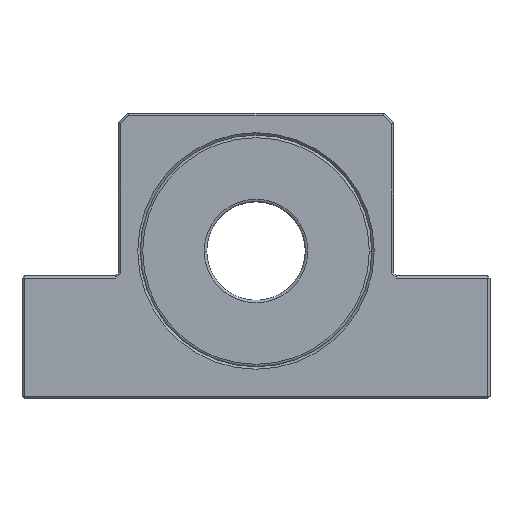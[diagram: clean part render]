
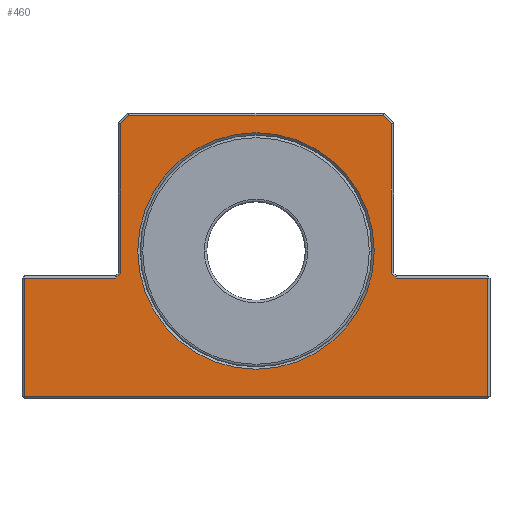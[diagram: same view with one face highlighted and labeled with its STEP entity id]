
A CAD part, top view. The second image highlights one B-rep face of the part: STEP entity #460.
In plain terms, the highlighted planar face has unit normal (0, 0, 1).
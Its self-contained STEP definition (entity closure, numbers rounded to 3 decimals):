
#30 = CARTESIAN_POINT ( 'NONE',  ( -24., 0., 13. ) ) ;
#34 = CARTESIAN_POINT ( 'NONE',  ( -27.5, -4.5, 13. ) ) ;
#35 = CARTESIAN_POINT ( 'NONE',  ( -27.5, 25.793, 13. ) ) ;
#36 = CARTESIAN_POINT ( 'NONE',  ( -25.793, 27.5, 13. ) ) ;
#42 = CARTESIAN_POINT ( 'NONE',  ( -47., -29.5, 13. ) ) ;
#43 = CARTESIAN_POINT ( 'NONE',  ( 28.5, -5.5, 13. ) ) ;
#44 = CARTESIAN_POINT ( 'NONE',  ( 47., -5.5, 13. ) ) ;
#74 = CARTESIAN_POINT ( 'NONE',  ( 27.5, -4.5, 13. ) ) ;
#75 = CARTESIAN_POINT ( 'NONE',  ( -47., -5.5, 13. ) ) ;
#94 = CARTESIAN_POINT ( 'NONE',  ( -28.5, -5.5, 13. ) ) ;
#95 = CARTESIAN_POINT ( 'NONE',  ( 47., -29.5, 13. ) ) ;
#102 = CARTESIAN_POINT ( 'NONE',  ( 24., 0., 13. ) ) ;
#112 = CARTESIAN_POINT ( 'NONE',  ( 27.5, 25.793, 13. ) ) ;
#137 = CARTESIAN_POINT ( 'NONE',  ( 25.793, 27.5, 13. ) ) ;
#179 = AXIS2_PLACEMENT_3D ( 'NONE', #1050, #1051, #1052 ) ;
#241 = FACE_OUTER_BOUND ( 'NONE', #610, .T. ) ;
#296 = FACE_BOUND ( 'NONE', #603, .T. ) ;
#322 = AXIS2_PLACEMENT_3D ( 'NONE', #1313, #1314, #1315 ) ;
#381 = EDGE_CURVE ( 'NONE', #538, #497, #1519, .T. ) ;
#460 = ADVANCED_FACE ( 'NONE', ( #296, #241 ), #1312, .F. ) ;
#497 = VERTEX_POINT ( 'NONE', #30 ) ;
#498 = VERTEX_POINT ( 'NONE', #36 ) ;
#499 = VERTEX_POINT ( 'NONE', #35 ) ;
#500 = VERTEX_POINT ( 'NONE', #34 ) ;
#505 = VERTEX_POINT ( 'NONE', #43 ) ;
#506 = VERTEX_POINT ( 'NONE', #44 ) ;
#512 = VERTEX_POINT ( 'NONE', #42 ) ;
#538 = VERTEX_POINT ( 'NONE', #102 ) ;
#554 = VERTEX_POINT ( 'NONE', #75 ) ;
#555 = VERTEX_POINT ( 'NONE', #74 ) ;
#562 = VERTEX_POINT ( 'NONE', #112 ) ;
#576 = VERTEX_POINT ( 'NONE', #95 ) ;
#577 = VERTEX_POINT ( 'NONE', #94 ) ;
#586 = VERTEX_POINT ( 'NONE', #137 ) ;
#603 = EDGE_LOOP ( 'NONE', ( #765, #766 ) ) ;
#610 = EDGE_LOOP ( 'NONE', ( #767, #769, #768, #770, #771, #772, #773, #774, #775, #776, #777, #778 ) ) ;
#765 = ORIENTED_EDGE ( 'NONE', *, *, #381, .T. ) ;
#766 = ORIENTED_EDGE ( 'NONE', *, *, #1403, .T. ) ;
#767 = ORIENTED_EDGE ( 'NONE', *, *, #1404, .T. ) ;
#768 = ORIENTED_EDGE ( 'NONE', *, *, #1405, .F. ) ;
#769 = ORIENTED_EDGE ( 'NONE', *, *, #1402, .T. ) ;
#770 = ORIENTED_EDGE ( 'NONE', *, *, #1406, .T. ) ;
#771 = ORIENTED_EDGE ( 'NONE', *, *, #1407, .T. ) ;
#772 = ORIENTED_EDGE ( 'NONE', *, *, #1408, .T. ) ;
#773 = ORIENTED_EDGE ( 'NONE', *, *, #1409, .T. ) ;
#774 = ORIENTED_EDGE ( 'NONE', *, *, #1410, .T. ) ;
#775 = ORIENTED_EDGE ( 'NONE', *, *, #1411, .F. ) ;
#776 = ORIENTED_EDGE ( 'NONE', *, *, #1412, .T. ) ;
#777 = ORIENTED_EDGE ( 'NONE', *, *, #1413, .T. ) ;
#778 = ORIENTED_EDGE ( 'NONE', *, *, #1414, .T. ) ;
#1050 = CARTESIAN_POINT ( 'NONE',  ( 0., 0., 13. ) ) ;
#1051 = DIRECTION ( 'NONE',  ( 0., 0., -1. ) ) ;
#1052 = DIRECTION ( 'NONE',  ( -1., 0., 0. ) ) ;
#1312 = PLANE ( 'NONE',  #322 ) ;
#1313 = CARTESIAN_POINT ( 'NONE',  ( 0., 0., 13. ) ) ;
#1314 = DIRECTION ( 'NONE',  ( 0., 0., -1. ) ) ;
#1315 = DIRECTION ( 'NONE',  ( -1., 0., 0. ) ) ;
#1402 = EDGE_CURVE ( 'NONE', #506, #505, #1835, .T. ) ;
#1403 = EDGE_CURVE ( 'NONE', #497, #538, #1574, .T. ) ;
#1404 = EDGE_CURVE ( 'NONE', #576, #506, #1841, .T. ) ;
#1405 = EDGE_CURVE ( 'NONE', #555, #505, #1844, .T. ) ;
#1406 = EDGE_CURVE ( 'NONE', #555, #562, #1847, .T. ) ;
#1407 = EDGE_CURVE ( 'NONE', #562, #586, #1850, .T. ) ;
#1408 = EDGE_CURVE ( 'NONE', #586, #498, #1853, .T. ) ;
#1409 = EDGE_CURVE ( 'NONE', #498, #499, #1856, .T. ) ;
#1410 = EDGE_CURVE ( 'NONE', #499, #500, #1859, .T. ) ;
#1411 = EDGE_CURVE ( 'NONE', #577, #500, #1862, .T. ) ;
#1412 = EDGE_CURVE ( 'NONE', #577, #554, #1865, .T. ) ;
#1413 = EDGE_CURVE ( 'NONE', #554, #512, #1868, .T. ) ;
#1414 = EDGE_CURVE ( 'NONE', #512, #576, #1871, .T. ) ;
#1519 = CIRCLE ( 'NONE', #179, 24. ) ;
#1574 = CIRCLE ( 'NONE', #1603, 24. ) ;
#1603 = AXIS2_PLACEMENT_3D ( 'NONE', #1834, #1838, #1839 ) ;
#1604 = VECTOR ( 'NONE', #1837, 1000. ) ;
#1606 = VECTOR ( 'NONE', #1843, 1000. ) ;
#1607 = VECTOR ( 'NONE', #1846, 1000. ) ;
#1608 = VECTOR ( 'NONE', #1849, 1000. ) ;
#1609 = VECTOR ( 'NONE', #1852, 1000. ) ;
#1610 = VECTOR ( 'NONE', #1855, 1000. ) ;
#1611 = VECTOR ( 'NONE', #1858, 1000. ) ;
#1612 = VECTOR ( 'NONE', #1861, 1000. ) ;
#1613 = VECTOR ( 'NONE', #1864, 1000. ) ;
#1614 = VECTOR ( 'NONE', #1867, 1000. ) ;
#1615 = VECTOR ( 'NONE', #1870, 1000. ) ;
#1616 = VECTOR ( 'NONE', #1873, 1000. ) ;
#1834 = CARTESIAN_POINT ( 'NONE',  ( 0., 0., 13. ) ) ;
#1835 = LINE ( 'NONE', #1836, #1604 ) ;
#1836 = CARTESIAN_POINT ( 'NONE',  ( 0., -5.5, 13. ) ) ;
#1837 = DIRECTION ( 'NONE',  ( -1., 0., 0. ) ) ;
#1838 = DIRECTION ( 'NONE',  ( 0., 0., -1. ) ) ;
#1839 = DIRECTION ( 'NONE',  ( -1., 0., 0. ) ) ;
#1841 = LINE ( 'NONE', #1842, #1606 ) ;
#1842 = CARTESIAN_POINT ( 'NONE',  ( 47., 0., 13. ) ) ;
#1843 = DIRECTION ( 'NONE',  ( 0., 1., 0. ) ) ;
#1844 = LINE ( 'NONE', #1845, #1607 ) ;
#1845 = CARTESIAN_POINT ( 'NONE',  ( 28.5, -5.5, 13. ) ) ;
#1846 = DIRECTION ( 'NONE',  ( 0.707, -0.707, 0. ) ) ;
#1847 = LINE ( 'NONE', #1848, #1608 ) ;
#1848 = CARTESIAN_POINT ( 'NONE',  ( 27.5, 0., 13. ) ) ;
#1849 = DIRECTION ( 'NONE',  ( 0., 1., 0. ) ) ;
#1850 = LINE ( 'NONE', #1851, #1609 ) ;
#1851 = CARTESIAN_POINT ( 'NONE',  ( 25.646, 27.646, 13. ) ) ;
#1852 = DIRECTION ( 'NONE',  ( -0.707, 0.707, 0. ) ) ;
#1853 = LINE ( 'NONE', #1854, #1610 ) ;
#1854 = CARTESIAN_POINT ( 'NONE',  ( 0., 27.5, 13. ) ) ;
#1855 = DIRECTION ( 'NONE',  ( -1., 0., 0. ) ) ;
#1856 = LINE ( 'NONE', #1857, #1611 ) ;
#1857 = CARTESIAN_POINT ( 'NONE',  ( -27.646, 25.646, 13. ) ) ;
#1858 = DIRECTION ( 'NONE',  ( -0.707, -0.707, 0. ) ) ;
#1859 = LINE ( 'NONE', #1860, #1612 ) ;
#1860 = CARTESIAN_POINT ( 'NONE',  ( -27.5, 0., 13. ) ) ;
#1861 = DIRECTION ( 'NONE',  ( 0., -1., 0. ) ) ;
#1862 = LINE ( 'NONE', #1863, #1613 ) ;
#1863 = CARTESIAN_POINT ( 'NONE',  ( -27.5, -4.5, 13. ) ) ;
#1864 = DIRECTION ( 'NONE',  ( 0.707, 0.707, 0. ) ) ;
#1865 = LINE ( 'NONE', #1866, #1614 ) ;
#1866 = CARTESIAN_POINT ( 'NONE',  ( 0., -5.5, 13. ) ) ;
#1867 = DIRECTION ( 'NONE',  ( -1., 0., 0. ) ) ;
#1868 = LINE ( 'NONE', #1869, #1615 ) ;
#1869 = CARTESIAN_POINT ( 'NONE',  ( -47., 0., 13. ) ) ;
#1870 = DIRECTION ( 'NONE',  ( 0., -1., 0. ) ) ;
#1871 = LINE ( 'NONE', #1872, #1616 ) ;
#1872 = CARTESIAN_POINT ( 'NONE',  ( 0., -29.5, 13. ) ) ;
#1873 = DIRECTION ( 'NONE',  ( 1., 0., 0. ) ) ;
